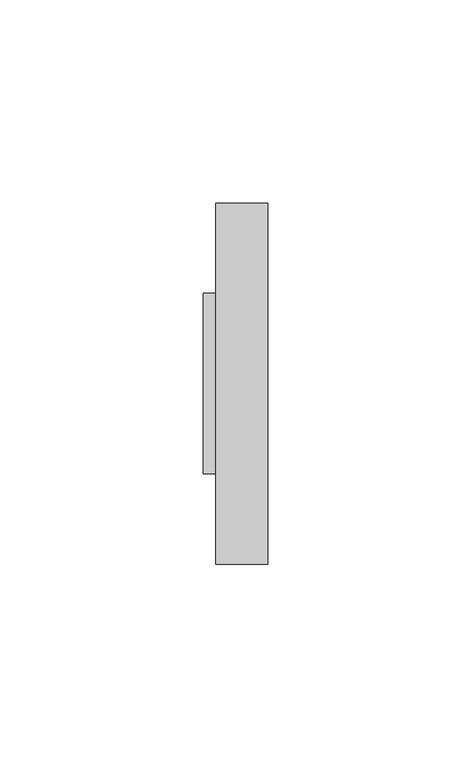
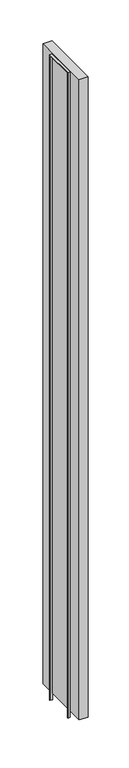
"""IFC4 building model written with IfcOpenShell, lengths in millimetres: furniture geometry."""

from ifc_helpers import new_model, si_unit, frame, origin, place, context, project, spatial, polyline, outline, extrude, source, transform, mapped, element, save


def furniture_8bbf410e(model_context):
    return source(origin(), model_context, "Body", "SweptSolid", [
        extrude(outline(polyline([(16.4287944, 963.6125), (16.4287944, 0.0), (15.6350444, 0.0), (15.6350444, 962.81875), (-27.2274556, 962.81875), (-27.2274556, 0.0), (-28.0212056, 0.0), (-28.0212056, 963.6125), (16.4287944, 963.6125)])), frame((-8.5456018, 0.0, 0.0), z_axis=(1.0, 0.0, 0.0), x_axis=(0.0, 1.0, 0.0)), (0.0, 0.0, 1.0), 3.175),
        extrude(outline(polyline([(7.3293982, 38.6537944), (7.3293982, -50.2462056), (-5.3706018, -50.2462056), (-5.3706018, 38.6537944), (7.3293982, 38.6537944)])), frame((0.0, 0.0, 9.525), z_axis=(0.0, 0.0, 1.0), x_axis=(1.0, 0.0, 0.0)), (0.0, 0.0, 1.0), 955.675),
    ])


if __name__ == "__main__":
    model = new_model("IFC4")
    model_context = context("Model", 3, world=origin())
    ifc_project = project(units=[si_unit("LENGTHUNIT", "METRE", prefix="MILLI")], contexts=[model_context])
    site = spatial("IfcSite", under=ifc_project)
    building = spatial("IfcBuilding", under=site)
    placement = place(None, origin())
    furniture_shape = furniture_8bbf410e(model_context)
    element("IfcFurniture", 1, ObjectType="HermanMiller_Ethospace_E1250_FinishedEnd : Std Ptd 38\"H", at=placement, inside=building, context=model_context, shape_type="MappedRepresentation", body=[
        mapped(furniture_shape, transform((0.0, 0.0, 0.0), x_axis=(1.0, 0.0, 0.0), y_axis=(0.0, 1.0, 0.0), z_axis=(0.0, 0.0, 1.0))),
    ])
    save(model, "model.ifc")
